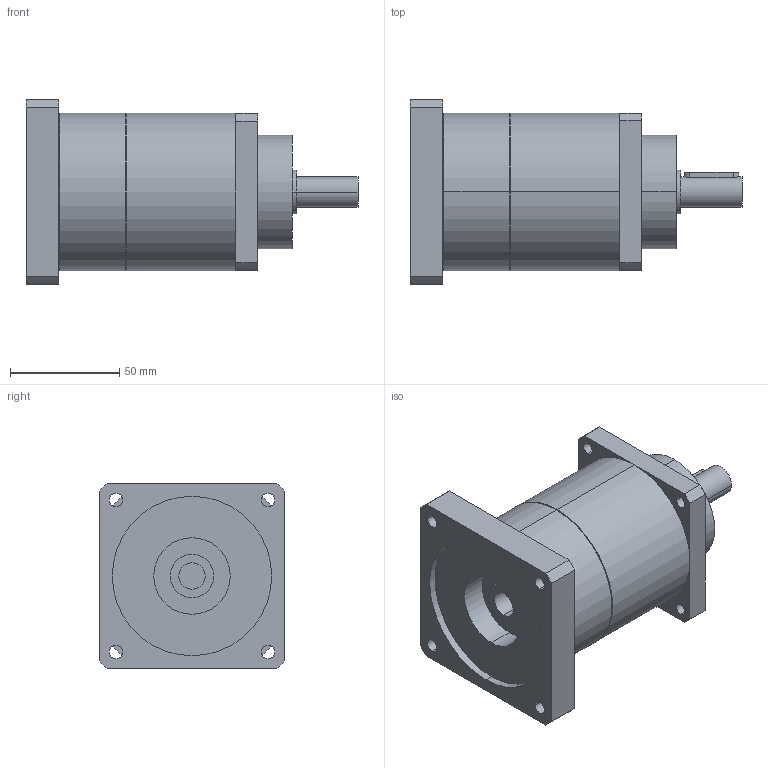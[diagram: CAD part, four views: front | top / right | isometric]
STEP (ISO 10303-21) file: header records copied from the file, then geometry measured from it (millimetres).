
FILE_DESCRIPTION(('CoCreate Modeling STEP Export'),'2;1');
FILE_NAME('GPT75_ig-9-12-16-20-25-28-35-40-50-70-100_14_B5T_12_P36.stp','2014-08-27T13:37:34',(''),(''),'CoCreate Modeling STEP processor for AP214 (Solid Model)','CoCreate Modeling 16.00C 25-Feb-2009 (C) Parametric Technology GmbH','');
FILE_SCHEMA(('AUTOMOTIVE_DESIGN { 1 0 10303 214 1 1 1 1 }'));
Length unit declared in the file: millimetre
Products named in the file (2): GPT75_ig-9-12-16-20-25-28-35-40-50-70-100_14_B5T_12_P36
Assembly tree (1 placements, depth 2):
  GPT75_ig-9-12-16-20-25-28-35-40-50-70-100_14_B5T_12_P36
    GPT75_ig-9-12-16-20-25-28-35-40-50-70-100_14_B5T_12_P36
Bounding box: 152 x 85 x 85 mm (x, y, z)
Volume: 497352.2 mm3; surface area: 52166 mm2
Topology: 1 solids, 1 shells, 77 faces, 194 edges, 129 vertices
Faces by surface type: cylinder 46, plane 27, cone 4
Entity records: 2484 total; most frequent: CARTESIAN_POINT 719, ORIENTED_EDGE 388, DIRECTION 320, EDGE_CURVE 194, VERTEX_POINT 129, AXIS2_PLACEMENT_3D 118, EDGE_LOOP 103, VECTOR 84
